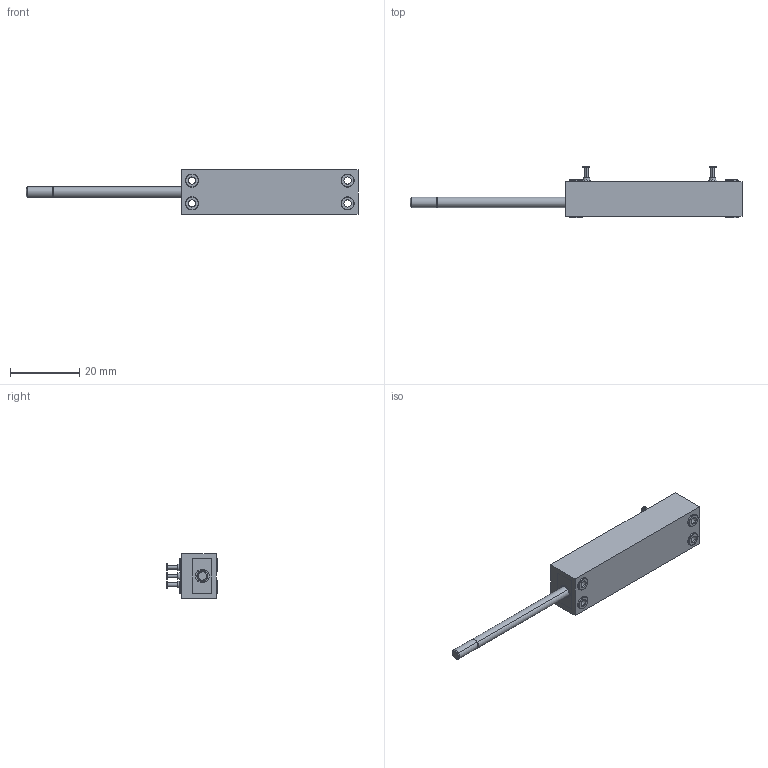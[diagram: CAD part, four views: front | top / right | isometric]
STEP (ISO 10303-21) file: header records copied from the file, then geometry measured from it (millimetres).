
FILE_DESCRIPTION (( 'STEP AP214' ), '1' );
FILE_NAME ('CLP13_25.STEP', '2016-11-28T09:20:48', ( '' ), ( '' ), 'SwSTEP 2.0', 'SolidWorks 2016', '' );
FILE_SCHEMA (( 'AUTOMOTIVE_DESIGN' ));
Length unit declared in the file: millimetre
Products named in the file (6): Taster_CLP_M2; Lager; Lötstifte_hoch; Hohlniet; Geheuse_CLP; CLP13_25
Assembly tree (10 placements, depth 2):
  CLP13_25
    Geheuse_CLP
    Hohlniet  x4
    Lötstifte_hoch  x3
    Lager
    Taster_CLP_M2
Bounding box: 96 x 15 x 13 mm (x, y, z)
Volume: 6287.1 mm3; surface area: 4971.2 mm2
Topology: 10 solids, 10 shells, 388 faces, 942 edges, 618 vertices
Faces by surface type: plane 197, bspline 85, cylinder 64, cone 42
Entity records: 14943 total; most frequent: CARTESIAN_POINT 7274, ORIENTED_EDGE 1604, DIRECTION 1214, EDGE_CURVE 802, VECTOR 538, LINE 538, VERTEX_POINT 530, EDGE_LOOP 362
